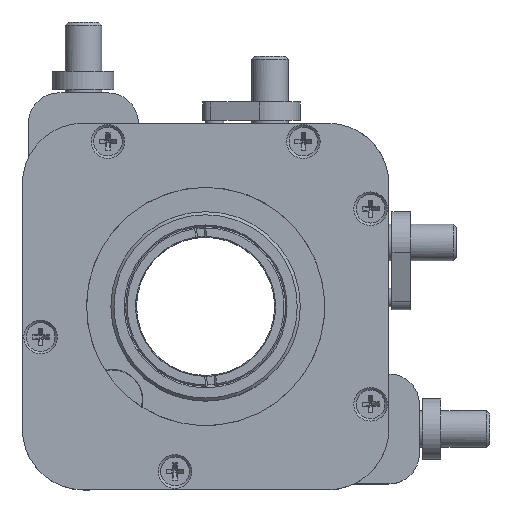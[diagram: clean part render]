
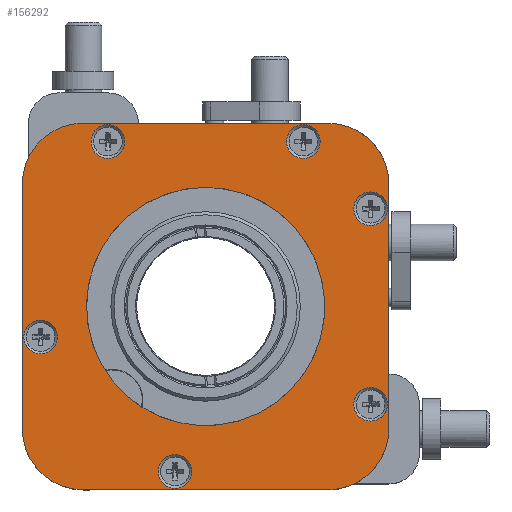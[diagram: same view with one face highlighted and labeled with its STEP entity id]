
A CAD part, top view. The second image highlights one B-rep face of the part: STEP entity #156292.
In plain terms, the highlighted planar face has unit normal (0, 0, 1).
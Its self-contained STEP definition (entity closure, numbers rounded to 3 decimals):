
#1420 = VERTEX_POINT ( 'NONE', #61455 ) ;
#4649 = ORIENTED_EDGE ( 'NONE', *, *, #86673, .F. ) ;
#5466 = ORIENTED_EDGE ( 'NONE', *, *, #48306, .T. ) ;
#6317 = DIRECTION ( 'NONE',  ( 0., -1., 0. ) ) ;
#7528 = CARTESIAN_POINT ( 'NONE',  ( 15.881, -50.624, 3.372 ) ) ;
#9500 = CARTESIAN_POINT ( 'NONE',  ( 8.881, -25.624, 3.372 ) ) ;
#10906 = CARTESIAN_POINT ( 'NONE',  ( 19.881, 9.126, 3.372 ) ) ;
#11361 = CARTESIAN_POINT ( 'NONE',  ( 65.881, -40.624, 3.372 ) ) ;
#11430 = CIRCLE ( 'NONE', #31506, 10. ) ;
#12933 = DIRECTION ( 'NONE',  ( 0., 1., 0. ) ) ;
#13813 = ORIENTED_EDGE ( 'NONE', *, *, #17012, .T. ) ;
#17012 = EDGE_CURVE ( 'NONE', #110739, #121210, #124603, .T. ) ;
#17671 = CARTESIAN_POINT ( 'NONE',  ( 55.881, 9.376, 3.372 ) ) ;
#17680 = FACE_BOUND ( 'NONE', #89258, .T. ) ;
#18865 = CIRCLE ( 'NONE', #23918, 2.75 ) ;
#19917 = EDGE_CURVE ( 'NONE', #46449, #142383, #36763, .T. ) ;
#20215 = EDGE_LOOP ( 'NONE', ( #55117, #88380, #13813, #89995, #64009, #5466, #109771, #142887 ) ) ;
#20552 = AXIS2_PLACEMENT_3D ( 'NONE', #52053, #99421, #112817 ) ;
#21085 = CIRCLE ( 'NONE', #96769, 2.75 ) ;
#22418 = DIRECTION ( 'NONE',  ( 0., 0., 1. ) ) ;
#23918 = AXIS2_PLACEMENT_3D ( 'NONE', #133250, #82751, #145080 ) ;
#26021 = EDGE_LOOP ( 'NONE', ( #72511 ) ) ;
#26069 = DIRECTION ( 'NONE',  ( 0., 1., 0. ) ) ;
#29373 = CARTESIAN_POINT ( 'NONE',  ( 51.881, 9.126, 3.372 ) ) ;
#30311 = DIRECTION ( 'NONE',  ( 0., -1., 0. ) ) ;
#31506 = AXIS2_PLACEMENT_3D ( 'NONE', #42196, #125896, #41438 ) ;
#36173 = VERTEX_POINT ( 'NONE', #60667 ) ;
#36763 = CIRCLE ( 'NONE', #97296, 10. ) ;
#38284 = CIRCLE ( 'NONE', #20552, 2.75 ) ;
#38741 = AXIS2_PLACEMENT_3D ( 'NONE', #103774, #68240, #151142 ) ;
#39086 = FACE_BOUND ( 'NONE', #48951, .T. ) ;
#40459 = VERTEX_POINT ( 'NONE', #29373 ) ;
#41438 = DIRECTION ( 'NONE',  ( 0., -1., 0. ) ) ;
#42196 = CARTESIAN_POINT ( 'NONE',  ( 15.881, -0.624, 3.372 ) ) ;
#42401 = ORIENTED_EDGE ( 'NONE', *, *, #67359, .F. ) ;
#42939 = DIRECTION ( 'NONE',  ( -1., 0., 0. ) ) ;
#43289 = CARTESIAN_POINT ( 'NONE',  ( 15.881, 9.376, 3.372 ) ) ;
#43419 = CARTESIAN_POINT ( 'NONE',  ( 5.881, -40.624, 3.372 ) ) ;
#43986 = EDGE_CURVE ( 'NONE', #40459, #40459, #139942, .T. ) ;
#44342 = EDGE_CURVE ( 'NONE', #94378, #100289, #11430, .T. ) ;
#46449 = VERTEX_POINT ( 'NONE', #133491 ) ;
#48306 = EDGE_CURVE ( 'NONE', #100289, #86834, #152346, .T. ) ;
#48951 = EDGE_LOOP ( 'NONE', ( #116357 ) ) ;
#49619 = CARTESIAN_POINT ( 'NONE',  ( 35.881, -1.124, 3.372 ) ) ;
#49802 = DIRECTION ( 'NONE',  ( 0., 0., 1. ) ) ;
#52053 = CARTESIAN_POINT ( 'NONE',  ( 62.881, -36.624, 3.372 ) ) ;
#53561 = CARTESIAN_POINT ( 'NONE',  ( 55.881, -0.624, 3.372 ) ) ;
#55117 = ORIENTED_EDGE ( 'NONE', *, *, #19917, .T. ) ;
#56511 = AXIS2_PLACEMENT_3D ( 'NONE', #53561, #22418, #69855 ) ;
#59656 = CARTESIAN_POINT ( 'NONE',  ( 62.881, -33.874, 3.372 ) ) ;
#60667 = CARTESIAN_POINT ( 'NONE',  ( 30.881, -44.874, 3.372 ) ) ;
#61455 = CARTESIAN_POINT ( 'NONE',  ( 62.881, -1.874, 3.372 ) ) ;
#63767 = EDGE_LOOP ( 'NONE', ( #42401 ) ) ;
#64009 = ORIENTED_EDGE ( 'NONE', *, *, #44342, .T. ) ;
#64921 = EDGE_CURVE ( 'NONE', #121210, #94378, #128195, .T. ) ;
#65877 = FACE_BOUND ( 'NONE', #68946, .T. ) ;
#66434 = CARTESIAN_POINT ( 'NONE',  ( 62.881, -4.624, 3.372 ) ) ;
#66845 = CARTESIAN_POINT ( 'NONE',  ( 65.881, -0.624, 3.372 ) ) ;
#67118 = DIRECTION ( 'NONE',  ( 0., 0., 1. ) ) ;
#67359 = EDGE_CURVE ( 'NONE', #95414, #95414, #18865, .T. ) ;
#68240 = DIRECTION ( 'NONE',  ( 0., 0., 1. ) ) ;
#68946 = EDGE_LOOP ( 'NONE', ( #110119 ) ) ;
#69855 = DIRECTION ( 'NONE',  ( 0., 1., 0. ) ) ;
#70350 = ORIENTED_EDGE ( 'NONE', *, *, #80892, .F. ) ;
#72511 = ORIENTED_EDGE ( 'NONE', *, *, #153194, .F. ) ;
#73454 = AXIS2_PLACEMENT_3D ( 'NONE', #123858, #74930, #98601 ) ;
#74930 = DIRECTION ( 'NONE',  ( 0., 0., 1. ) ) ;
#75422 = FACE_BOUND ( 'NONE', #26021, .T. ) ;
#77200 = ORIENTED_EDGE ( 'NONE', *, *, #43986, .F. ) ;
#78970 = AXIS2_PLACEMENT_3D ( 'NONE', #94110, #128098, #140708 ) ;
#80802 = CARTESIAN_POINT ( 'NONE',  ( 55.881, -50.624, 3.372 ) ) ;
#80892 = EDGE_CURVE ( 'NONE', #36173, #36173, #101629, .T. ) ;
#82751 = DIRECTION ( 'NONE',  ( 0., 0., 1. ) ) ;
#82823 = EDGE_CURVE ( 'NONE', #1420, #1420, #21085, .T. ) ;
#86179 = CARTESIAN_POINT ( 'NONE',  ( 55.881, 9.376, 3.372 ) ) ;
#86673 = EDGE_CURVE ( 'NONE', #111152, #111152, #88566, .T. ) ;
#86834 = VERTEX_POINT ( 'NONE', #141551 ) ;
#86842 = EDGE_CURVE ( 'NONE', #107567, #46449, #152631, .T. ) ;
#87273 = CARTESIAN_POINT ( 'NONE',  ( 55.881, -40.624, 3.372 ) ) ;
#88380 = ORIENTED_EDGE ( 'NONE', *, *, #128673, .T. ) ;
#88566 = CIRCLE ( 'NONE', #73454, 19.5 ) ;
#89258 = EDGE_LOOP ( 'NONE', ( #77200 ) ) ;
#89264 = CIRCLE ( 'NONE', #38741, 10. ) ;
#89995 = ORIENTED_EDGE ( 'NONE', *, *, #64921, .T. ) ;
#90351 = DIRECTION ( 'NONE',  ( 0., 0., -1. ) ) ;
#91115 = VECTOR ( 'NONE', #103707, 1000. ) ;
#93497 = CIRCLE ( 'NONE', #136708, 2.75 ) ;
#94110 = CARTESIAN_POINT ( 'NONE',  ( 30.881, -47.624, 3.372 ) ) ;
#94378 = VERTEX_POINT ( 'NONE', #43289 ) ;
#95221 = EDGE_LOOP ( 'NONE', ( #70350 ) ) ;
#95414 = VERTEX_POINT ( 'NONE', #10906 ) ;
#95962 = VERTEX_POINT ( 'NONE', #143323 ) ;
#96769 = AXIS2_PLACEMENT_3D ( 'NONE', #66434, #113033, #113797 ) ;
#97296 = AXIS2_PLACEMENT_3D ( 'NONE', #102651, #67118, #150786 ) ;
#98601 = DIRECTION ( 'NONE',  ( 0., 1., 0. ) ) ;
#98728 = CARTESIAN_POINT ( 'NONE',  ( 51.881, 6.376, 3.372 ) ) ;
#99421 = DIRECTION ( 'NONE',  ( 0., 0., 1. ) ) ;
#100289 = VERTEX_POINT ( 'NONE', #134674 ) ;
#101629 = CIRCLE ( 'NONE', #78970, 2.75 ) ;
#102205 = FACE_OUTER_BOUND ( 'NONE', #20215, .T. ) ;
#102651 = CARTESIAN_POINT ( 'NONE',  ( 55.881, -40.624, 3.372 ) ) ;
#103707 = DIRECTION ( 'NONE',  ( 1., 0., 0. ) ) ;
#103774 = CARTESIAN_POINT ( 'NONE',  ( 15.881, -40.624, 3.372 ) ) ;
#107567 = VERTEX_POINT ( 'NONE', #7528 ) ;
#109095 = VECTOR ( 'NONE', #42939, 1000. ) ;
#109771 = ORIENTED_EDGE ( 'NONE', *, *, #139724, .T. ) ;
#110119 = ORIENTED_EDGE ( 'NONE', *, *, #147713, .F. ) ;
#110739 = VERTEX_POINT ( 'NONE', #66845 ) ;
#111152 = VERTEX_POINT ( 'NONE', #49619 ) ;
#112817 = DIRECTION ( 'NONE',  ( 0., 1., 0. ) ) ;
#113033 = DIRECTION ( 'NONE',  ( 0., 0., 1. ) ) ;
#113797 = DIRECTION ( 'NONE',  ( 0., 1., 0. ) ) ;
#116357 = ORIENTED_EDGE ( 'NONE', *, *, #82823, .F. ) ;
#119569 = LINE ( 'NONE', #145584, #149647 ) ;
#121210 = VERTEX_POINT ( 'NONE', #86179 ) ;
#121597 = AXIS2_PLACEMENT_3D ( 'NONE', #87273, #90351, #30311 ) ;
#123858 = CARTESIAN_POINT ( 'NONE',  ( 35.881, -20.624, 3.372 ) ) ;
#123965 = EDGE_LOOP ( 'NONE', ( #4649 ) ) ;
#124603 = CIRCLE ( 'NONE', #56511, 10. ) ;
#125886 = FACE_BOUND ( 'NONE', #63767, .T. ) ;
#125896 = DIRECTION ( 'NONE',  ( 0., 0., 1. ) ) ;
#126658 = PLANE ( 'NONE',  #121597 ) ;
#128098 = DIRECTION ( 'NONE',  ( 0., 0., 1. ) ) ;
#128195 = LINE ( 'NONE', #17671, #109095 ) ;
#128673 = EDGE_CURVE ( 'NONE', #142383, #110739, #119569, .T. ) ;
#133250 = CARTESIAN_POINT ( 'NONE',  ( 19.881, 6.376, 3.372 ) ) ;
#133491 = CARTESIAN_POINT ( 'NONE',  ( 55.881, -50.624, 3.372 ) ) ;
#134674 = CARTESIAN_POINT ( 'NONE',  ( 5.881, -0.624, 3.372 ) ) ;
#136708 = AXIS2_PLACEMENT_3D ( 'NONE', #9500, #144493, #143704 ) ;
#138501 = FACE_BOUND ( 'NONE', #95221, .T. ) ;
#139724 = EDGE_CURVE ( 'NONE', #86834, #107567, #89264, .T. ) ;
#139942 = CIRCLE ( 'NONE', #142517, 2.75 ) ;
#140708 = DIRECTION ( 'NONE',  ( 0., 1., 0. ) ) ;
#141551 = CARTESIAN_POINT ( 'NONE',  ( 5.881, -40.624, 3.372 ) ) ;
#142383 = VERTEX_POINT ( 'NONE', #11361 ) ;
#142517 = AXIS2_PLACEMENT_3D ( 'NONE', #98728, #49802, #26069 ) ;
#142887 = ORIENTED_EDGE ( 'NONE', *, *, #86842, .T. ) ;
#143323 = CARTESIAN_POINT ( 'NONE',  ( 8.881, -22.874, 3.372 ) ) ;
#143704 = DIRECTION ( 'NONE',  ( 0., 1., 0. ) ) ;
#144099 = VERTEX_POINT ( 'NONE', #59656 ) ;
#144493 = DIRECTION ( 'NONE',  ( 0., 0., 1. ) ) ;
#145080 = DIRECTION ( 'NONE',  ( 0., 1., 0. ) ) ;
#145584 = CARTESIAN_POINT ( 'NONE',  ( 65.881, -40.624, 3.372 ) ) ;
#147713 = EDGE_CURVE ( 'NONE', #95962, #95962, #93497, .T. ) ;
#149647 = VECTOR ( 'NONE', #12933, 1000. ) ;
#150336 = FACE_BOUND ( 'NONE', #123965, .T. ) ;
#150786 = DIRECTION ( 'NONE',  ( 0., -1., 0. ) ) ;
#151142 = DIRECTION ( 'NONE',  ( 0., -1., 0. ) ) ;
#152346 = LINE ( 'NONE', #43419, #153533 ) ;
#152631 = LINE ( 'NONE', #80802, #91115 ) ;
#153194 = EDGE_CURVE ( 'NONE', #144099, #144099, #38284, .T. ) ;
#153533 = VECTOR ( 'NONE', #6317, 1000. ) ;
#156292 = ADVANCED_FACE ( 'NONE', ( #125886, #17680, #39086, #75422, #138501, #65877, #102205, #150336 ), #126658, .F. ) ;
